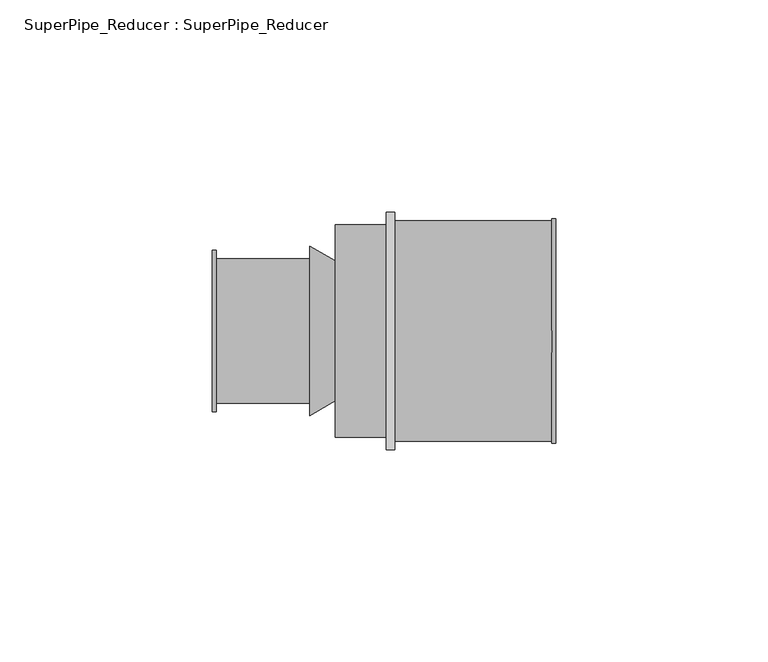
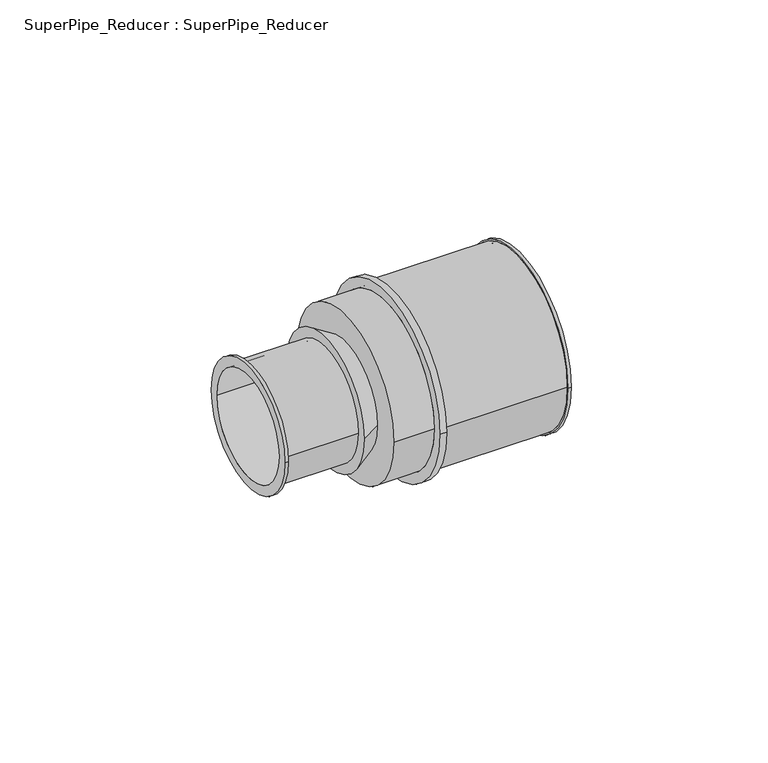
"""IFC4 building model written with IfcOpenShell, lengths in millimetres: pipe fitting geometry, SuperPipe_Reducer : SuperPipe_Reducer."""

from ifc_helpers import new_model, si_unit, point, frame, origin, origin_2d, place, context, project, spatial, polyline, circle_curve, trimmed, segment, composite_curve, outline, extrude, source, transform, mapped, element, save
from ifc_brep_helpers import plane_surface, cylinder_surface, revolved_surface, advanced_brep


def superpipe_reducer_superpipe_reducer_defe1720(model_context):
    return source(origin(), model_context, "Body", "SolidModel", [
        advanced_brep(
        [(-29.0, -19.0, 0.0), (-29.0, 19.0, 0.0), (-29.0, -16.0, 0.0), (-29.0, 16.0, 0.0), (-6.0, -17.0, 0.0), (-6.0, 17.0, 0.0), (-6.0, -16.0, 0.0), (-6.0, 16.0, 0.0), (-28.0, -16.0, 0.0), (-28.0, 16.0, 0.0), (-28.0, 17.0, 0.0), (-28.0, -17.0, 0.0), (-28.0, -19.0, 0.0), (-28.0, 19.0, 0.0)],
        [
            (0, 1, circle_curve(frame((-29.0, 0.0, 0.0), z_axis=(-1.0, 0.0, 0.0), x_axis=(0.0, 1.0, 0.0)), 19.0)),
            (1, 0, circle_curve(frame((-29.0, 0.0, 0.0), z_axis=(-1.0, 0.0, 0.0), x_axis=(0.0, 1.0, 0.0)), 19.0)),
            (2, 3, circle_curve(frame((-29.0, 0.0, 0.0), z_axis=(1.0, 0.0, 0.0), x_axis=(0.0, 1.0, 0.0)), 16.0)),
            (3, 2, circle_curve(frame((-29.0, 0.0, 0.0), z_axis=(1.0, 0.0, 0.0), x_axis=(0.0, 1.0, 0.0)), 16.0)),
            (4, 5, circle_curve(frame((-6.0, 0.0, 0.0), z_axis=(1.0, 0.0, 0.0), x_axis=(0.0, 1.0, 0.0)), 17.0)),
            (5, 4, circle_curve(frame((-6.0, 0.0, 0.0), z_axis=(1.0, 0.0, 0.0), x_axis=(0.0, 1.0, 0.0)), 17.0)),
            (6, 7, circle_curve(frame((-6.0, 0.0, 0.0), z_axis=(-1.0, 0.0, 0.0), x_axis=(0.0, 1.0, 0.0)), 16.0)),
            (7, 6, circle_curve(frame((-6.0, 0.0, 0.0), z_axis=(-1.0, 0.0, 0.0), x_axis=(0.0, 1.0, 0.0)), 16.0)),
            (2, 8),
            (8, 6),
            (7, 9),
            (9, 3),
            (5, 10),
            (10, 11, circle_curve(frame((-28.0, 0.0, 0.0), z_axis=(1.0, 0.0, 0.0), x_axis=(0.0, 1.0, 0.0)), 17.0)),
            (11, 4),
            (11, 10, circle_curve(frame((-28.0, 0.0, 0.0), z_axis=(1.0, 0.0, 0.0), x_axis=(0.0, 1.0, 0.0)), 17.0)),
            (12, 13, circle_curve(frame((-28.0, 0.0, 0.0), z_axis=(1.0, 0.0, 0.0), x_axis=(0.0, 1.0, 0.0)), 19.0)),
            (13, 12, circle_curve(frame((-28.0, 0.0, 0.0), z_axis=(1.0, 0.0, 0.0), x_axis=(0.0, 1.0, 0.0)), 19.0)),
            (1, 13),
            (12, 0),
        ],
        [
            plane_surface(frame((-29.0, 0.0, 0.0), z_axis=(-1.0, 0.0, 0.0), x_axis=(0.0, 0.0, 1.0))),
            plane_surface(frame((-6.0, 0.0, 0.0), z_axis=(1.0, 0.0, 0.0), x_axis=(0.0, 0.0, 1.0))),
            revolved_surface(polyline([(-6.0, 16.0, 0.0), (-29.0, 16.0, 0.0)]), (-29.0, 0.0, 0.0), (1.0, 0.0, 0.0)),
            cylinder_surface(frame((-29.0, 0.0, 0.0), z_axis=(-1.0, 0.0, 0.0), x_axis=(0.0, 1.0, 0.0)), 17.0),
            plane_surface(frame((-28.0, 0.0, 0.0), z_axis=(1.0, 0.0, 0.0), x_axis=(0.0, 0.0, 1.0))),
            cylinder_surface(frame((-29.0, 0.0, 0.0), z_axis=(-1.0, 0.0, 0.0), x_axis=(0.0, 1.0, 0.0)), 19.0),
        ],
        [
            (0, [[1, 2], [3, 4]]),
            (1, [[5, 6], [7, 8]]),
            (2, [[-3, 9, 10, -8, 11, 12]]),
            (2, [[-4, -12, -11, -7, -10, -9]]),
            (3, [[-6, 13, 14, 15]]),
            (3, [[-5, -15, 16, -13]]),
            (4, [[17, 18], [-14, -16]]),
            (5, [[-2, 19, -17, 20]]),
            (5, [[-1, -20, -18, -19]]),
        ],
    ),
        advanced_brep(
        [(0.0, -16.5, 0.0), (0.0, 16.5, 0.0), (0.0, -16.0, 0.0), (0.0, 16.0, 0.0), (-6.0, -20.0, 0.0), (-6.0, 20.0, 0.0), (-6.0, 16.0, 0.0), (-6.0, -16.0, 0.0)],
        [
            (0, 1, circle_curve(frame((0.0, 0.0, 0.0), z_axis=(1.0, 0.0, 0.0), x_axis=(0.0, -1.0, 0.0)), 16.5)),
            (1, 0, circle_curve(frame((0.0, 0.0, 0.0), z_axis=(1.0, 0.0, 0.0), x_axis=(0.0, 1.0, 0.0)), 16.5)),
            (2, 3, circle_curve(frame((0.0, 0.0, 0.0), z_axis=(-1.0, 0.0, 0.0), x_axis=(0.0, 1.0, 0.0)), 16.0)),
            (3, 2, circle_curve(frame((0.0, 0.0, 0.0), z_axis=(-1.0, 0.0, 0.0), x_axis=(0.0, 1.0, 0.0)), 16.0)),
            (4, 5, circle_curve(frame((-6.0, 0.0, 0.0), z_axis=(-1.0, 0.0, 0.0), x_axis=(0.0, 1.0, 0.0)), 20.0)),
            (5, 4, circle_curve(frame((-6.0, 0.0, 0.0), z_axis=(-1.0, 0.0, 0.0), x_axis=(0.0, -1.0, 0.0)), 20.0)),
            (6, 7, circle_curve(frame((-6.0, 0.0, 0.0), z_axis=(1.0, 0.0, 0.0), x_axis=(0.0, 1.0, 0.0)), 16.0)),
            (7, 6, circle_curve(frame((-6.0, 0.0, 0.0), z_axis=(1.0, 0.0, 0.0), x_axis=(0.0, 1.0, 0.0)), 16.0)),
            (0, 4),
            (5, 1),
            (6, 3),
            (2, 7),
        ],
        [
            plane_surface(frame((0.0, 0.0, 0.0), z_axis=(1.0, 0.0, 0.0), x_axis=(0.0, 0.0, -1.0))),
            plane_surface(frame((-6.0, 0.0, 0.0), z_axis=(-1.0, 0.0, 0.0), x_axis=(0.0, 0.0, -1.0))),
            revolved_surface(polyline([(0.0, -16.500000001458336, 0.0), (-5.9999999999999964, -20.0, 0.0)]), (28.2857143, 0.0, 0.0), (-1.0, 0.0, 0.0)),
            revolved_surface(polyline([(0.0, 16.500000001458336, 0.0), (-5.9999999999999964, 20.0, 0.0)]), (28.2857143, 0.0, 0.0), (-1.0, 0.0, 0.0)),
            revolved_surface(polyline([(-6.0, 16.0, 0.0), (0.0, 16.0, 0.0)]), (-6.0, 0.0, 0.0), (-1.0, 0.0, 0.0)),
        ],
        [
            (0, [[1, 2], [3, 4]]),
            (1, [[5, 6], [7, 8]]),
            (2, [[-1, 9, -6, 10]]),
            (3, [[-2, -10, -5, -9]]),
            (4, [[11, -3, 12, -7]]),
            (4, [[-11, -8, -12, -4]]),
        ],
    ),
        extrude(outline(composite_curve([segment(trimmed(circle_curve(origin_2d(), 28.0), [point((-28.0, 0.0))], [point((28.0, 0.0))], False, "CARTESIAN"), True, "CONTINUOUS"), segment(trimmed(circle_curve(origin_2d(), 28.0), [point((28.0, 0.0))], [point((-28.0, 0.0))], False, "CARTESIAN"), True, "CONTINUOUS")], self_intersect=False), holes=[composite_curve([segment(trimmed(circle_curve(origin_2d(), 25.0), [point((25.0, 0.0))], [point((-25.0, 0.0))], True, "CARTESIAN"), True, "CONTINUOUS"), segment(trimmed(circle_curve(origin_2d(), 25.0), [point((-25.0, 0.0))], [point((25.0, 0.0))], True, "CARTESIAN"), True, "CONTINUOUS")], self_intersect=False)]), frame((12.0, 0.0, 0.0), z_axis=(1.0, 0.0, 0.0), x_axis=(0.0, 1.0, 0.0)), (0.0, 0.0, 1.0), 2.0),
        advanced_brep(
        [(14.0, -26.0, 0.0), (14.0, 26.0, 0.0), (14.0, -25.0, 0.0), (14.0, 25.0, 0.0), (52.0, -26.5, 0.0), (52.0, 26.5, 0.0), (52.0, -25.0, 0.0), (52.0, 25.0, 0.0), (51.0, -26.0, 0.0), (51.0, 26.0, 0.0), (51.0, -25.0, 0.0), (51.0, 25.0, 0.0), (51.0, -26.5, 0.0), (51.0, 26.5, 0.0)],
        [
            (0, 1, circle_curve(frame((14.0, 0.0, 0.0), z_axis=(-1.0, 0.0, 0.0), x_axis=(0.0, 1.0, 0.0)), 26.0)),
            (1, 0, circle_curve(frame((14.0, 0.0, 0.0), z_axis=(-1.0, 0.0, 0.0), x_axis=(0.0, 1.0, 0.0)), 26.0)),
            (2, 3, circle_curve(frame((14.0, 0.0, 0.0), z_axis=(1.0, 0.0, 0.0), x_axis=(0.0, 1.0, 0.0)), 25.0)),
            (3, 2, circle_curve(frame((14.0, 0.0, 0.0), z_axis=(1.0, 0.0, 0.0), x_axis=(0.0, 1.0, 0.0)), 25.0)),
            (4, 5, circle_curve(frame((52.0, 0.0, 0.0), z_axis=(1.0, 0.0, 0.0), x_axis=(0.0, 1.0, 0.0)), 26.5)),
            (5, 4, circle_curve(frame((52.0, 0.0, 0.0), z_axis=(1.0, 0.0, 0.0), x_axis=(0.0, 1.0, 0.0)), 26.5)),
            (6, 7, circle_curve(frame((52.0, 0.0, 0.0), z_axis=(-1.0, 0.0, 0.0), x_axis=(0.0, 1.0, 0.0)), 25.0)),
            (7, 6, circle_curve(frame((52.0, 0.0, 0.0), z_axis=(-1.0, 0.0, 0.0), x_axis=(0.0, 1.0, 0.0)), 25.0)),
            (0, 8),
            (8, 9, circle_curve(frame((51.0, 0.0, 0.0), z_axis=(-1.0, 0.0, 0.0), x_axis=(0.0, 1.0, 0.0)), 26.0)),
            (9, 1),
            (9, 8, circle_curve(frame((51.0, 0.0, 0.0), z_axis=(-1.0, 0.0, 0.0), x_axis=(0.0, 1.0, 0.0)), 26.0)),
            (2, 10),
            (10, 6),
            (7, 11),
            (11, 3),
            (12, 13, circle_curve(frame((51.0, 0.0, 0.0), z_axis=(-1.0, 0.0, 0.0), x_axis=(0.0, 1.0, 0.0)), 26.5)),
            (13, 12, circle_curve(frame((51.0, 0.0, 0.0), z_axis=(-1.0, 0.0, 0.0), x_axis=(0.0, 1.0, 0.0)), 26.5)),
            (13, 5),
            (4, 12),
        ],
        [
            plane_surface(frame((14.0, 0.0, 0.0), z_axis=(-1.0, 0.0, 0.0), x_axis=(0.0, 0.0, 1.0))),
            plane_surface(frame((52.0, 0.0, 0.0), z_axis=(1.0, 0.0, 0.0), x_axis=(0.0, 0.0, 1.0))),
            cylinder_surface(frame((14.0, 0.0, 0.0), z_axis=(-1.0, 0.0, 0.0), x_axis=(0.0, 1.0, 0.0)), 26.0),
            revolved_surface(polyline([(52.0, 25.0, 0.0), (14.0, 25.0, 0.0)]), (14.0, 0.0, 0.0), (1.0, 0.0, 0.0)),
            plane_surface(frame((51.0, 0.0, 0.0), z_axis=(-1.0, 0.0, 0.0), x_axis=(0.0, 0.0, 1.0))),
            cylinder_surface(frame((51.0, 0.0, 0.0), z_axis=(-1.0, 0.0, 0.0), x_axis=(0.0, 1.0, 0.0)), 26.5),
        ],
        [
            (0, [[1, 2], [3, 4]]),
            (1, [[5, 6], [7, 8]]),
            (2, [[-1, 9, 10, 11]]),
            (2, [[-2, -11, 12, -9]]),
            (3, [[-3, 13, 14, -8, 15, 16]]),
            (3, [[-4, -16, -15, -7, -14, -13]]),
            (4, [[17, 18], [-10, -12]]),
            (5, [[-18, 19, -5, 20]]),
            (5, [[-17, -20, -6, -19]]),
        ],
    ),
        extrude(outline(composite_curve([segment(trimmed(circle_curve(origin_2d(), 25.0), [point((-25.0, 0.0))], [point((25.0, 0.0))], False, "CARTESIAN"), True, "CONTINUOUS"), segment(trimmed(circle_curve(origin_2d(), 25.0), [point((25.0, 0.0))], [point((-25.0, 0.0))], False, "CARTESIAN"), True, "CONTINUOUS")], self_intersect=False)), frame((0.0, 0.0, 0.0), z_axis=(1.0, 0.0, 0.0), x_axis=(0.0, 1.0, 0.0)), (0.0, 0.0, 1.0), 12.0),
    ])


if __name__ == "__main__":
    model = new_model("IFC4")
    model_context = context("Model", 3, world=origin())
    ifc_project = project(units=[si_unit("LENGTHUNIT", "METRE", prefix="MILLI")], contexts=[model_context])
    site = spatial("IfcSite", under=ifc_project)
    building = spatial("IfcBuilding", under=site)
    placement = place(None, origin())
    superpipe_reducer_superpipe_reducer_shape = superpipe_reducer_superpipe_reducer_defe1720(model_context)
    element("IfcPipeFitting", 1, ObjectType="SuperPipe_Reducer : SuperPipe_Reducer", at=placement, inside=building, context=model_context, shape_type="MappedRepresentation", body=[
        mapped(superpipe_reducer_superpipe_reducer_shape, transform((0.0, 0.0, 0.0), x_axis=(1.0, 0.0, 0.0), y_axis=(0.0, 1.0, 0.0), z_axis=(0.0, 0.0, 1.0))),
    ])
    save(model, "model.ifc")
